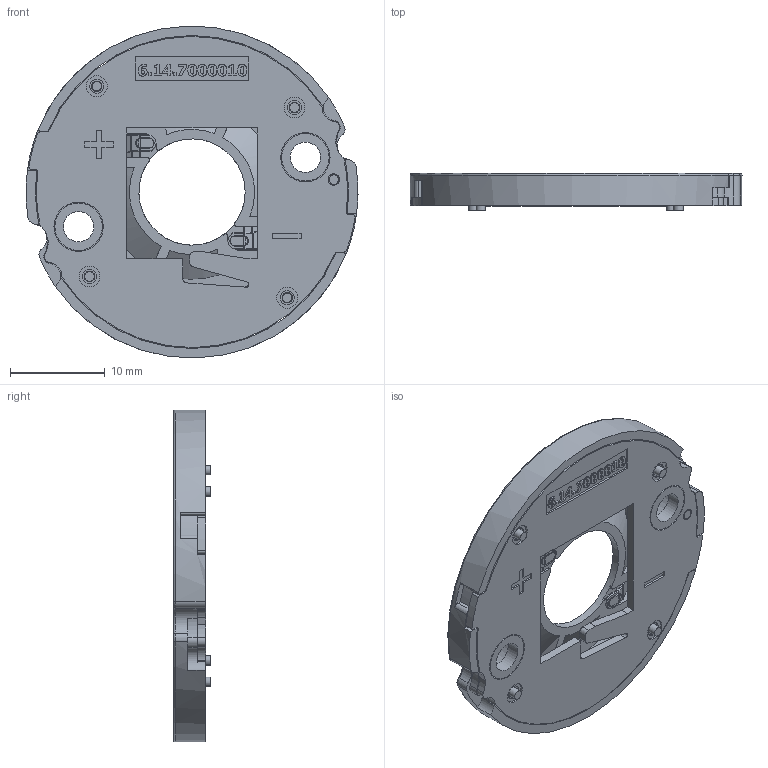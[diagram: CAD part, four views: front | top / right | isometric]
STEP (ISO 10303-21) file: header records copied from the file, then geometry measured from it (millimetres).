
FILE_DESCRIPTION(/* description */ (''),/* implementation_level */ '2;1');
FILE_NAME(/* name */ 'C:\Users\CS\Desktop\BXHD-1313-112规格图.stp',/* time_stamp */ '2024-10-15T10:30:48+08:00',/* author */ ('CS'),/* organization */ (''),/* preprocessor_version */ 'ST-DEVELOPER v18',/* originating_system */ 'Autodesk Inventor 2020',/* authorisation */ '');
FILE_SCHEMA (('AUTOMOTIVE_DESIGN { 1 0 10303 214 3 1 1 }'));
Length unit declared in the file: millimetre
Products named in the file (4): GL-P1313H规格图; P1313H-1（20230512修改与新增刻字）; SF4-1414-3 12-31; 1830-2G（规格图用）
Assembly tree (4 placements, depth 2):
  GL-P1313H规格图
    P1313H-1（20230512修改与新增刻字）
    SF4-1414-3 12-31
    1830-2G（规格图用）  x2
Bounding box: 35 x 3.9 x 34.99 mm (x, y, z)
Volume: 1981 mm3; surface area: 4309.3 mm2
Topology: 4 solids, 4 shells, 1134 faces, 3036 edges, 1993 vertices
Faces by surface type: plane 598, bspline 315, cylinder 182, torus 20, cone 19
Full cylindrical faces by diameter (mm): 1 x5, 1.1 x4, 1.2 x1, 1.5 x4, 2.1 x4, 2.2 x4, 3.2 x2, 5 x2, 5.2 x2, 6 x2, 11.2 x1
Entity records: 35065 total; most frequent: CARTESIAN_POINT 10036, ORIENTED_EDGE 5700, DIRECTION 4211, EDGE_CURVE 2850, VERTEX_POINT 1886, LINE 1781, VECTOR 1781, AXIS2_PLACEMENT_3D 1215
